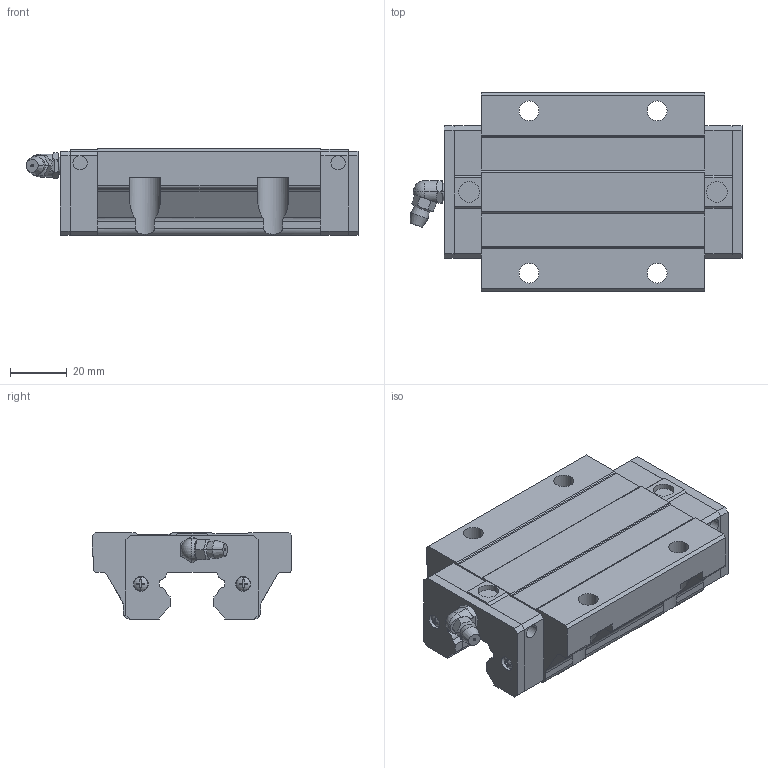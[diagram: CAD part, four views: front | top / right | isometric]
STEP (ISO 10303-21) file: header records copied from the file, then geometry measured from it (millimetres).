
FILE_DESCRIPTION(('starvars output'),'2;1');
FILE_NAME('cv20190626222852000041499.stp','22:28:52 2019/06/26',( 'Thomas Industrial Network Germany GmbH'),( 'Thomas Industrial Network Germany GmbH'),'unknown preprocess','ACIS' ,'unknown authorization');
FILE_SCHEMA(('CONFIG_CONTROL_DESIGN {UNKNOWN IMPLEMENTATION LEVEL}'));
Length unit declared in the file: millimetre
Products named in the file (10): PRODUCT_ID_12; PRODUCT_ID_13; PRODUCT_ID_14; PRODUCT_ID_15; PRODUCT_ID_16; PRODUCT_ID_17; PRODUCT_ID_18; PRODUCT_ID_19; PRODUCT_ID_20; PRODUCT_ID_21
Bounding box: 116.6 x 70 x 30.5 mm (x, y, z)
Volume: 141584.8 mm3; surface area: 36816 mm2
Topology: 10 solids, 10 shells, 408 faces, 1093 edges, 710 vertices
Faces by surface type: plane 272, cylinder 84, cone 40, sphere 12
Entity records: 12406 total; most frequent: ORIENTED_EDGE 2178, CARTESIAN_POINT 2169, DIRECTION 1682, EDGE_CURVE 1089, VERTEX_POINT 710, VECTOR 696, LINE 696, AXIS2_PLACEMENT_3D 493
